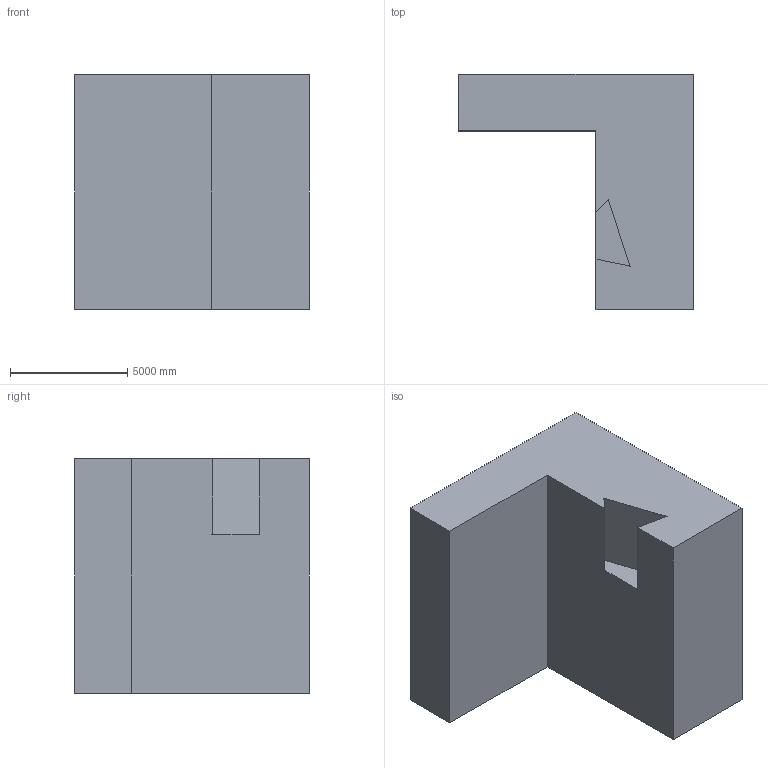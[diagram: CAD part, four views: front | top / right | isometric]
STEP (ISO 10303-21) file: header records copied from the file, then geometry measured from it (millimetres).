
FILE_DESCRIPTION (( 'STEP AP203' ), '1' );
FILE_NAME ('217.STEP', '2022-09-07T12:19:38', ( 'user' ), ( '' ), 'SwSTEP 2.0', 'SolidWorks 2021', '' );
FILE_SCHEMA (( 'CONFIG_CONTROL_DESIGN' ));
Length unit declared in the file: centimetre
Products named in the file (1): 217
Bounding box: 10000 x 10000 x 10000 mm (x, y, z)
Volume: 547614587604.9 mm3; surface area: 521739336.4 mm2
Topology: 1 solids, 1 shells, 12 faces, 30 edges, 20 vertices
Faces by surface type: plane 12
Entity records: 431 total; most frequent: CARTESIAN_POINT 63, ORIENTED_EDGE 60, DIRECTION 56, LINE 30, EDGE_CURVE 30, VECTOR 30, VERTEX_POINT 20, AXIS2_PLACEMENT_3D 13
